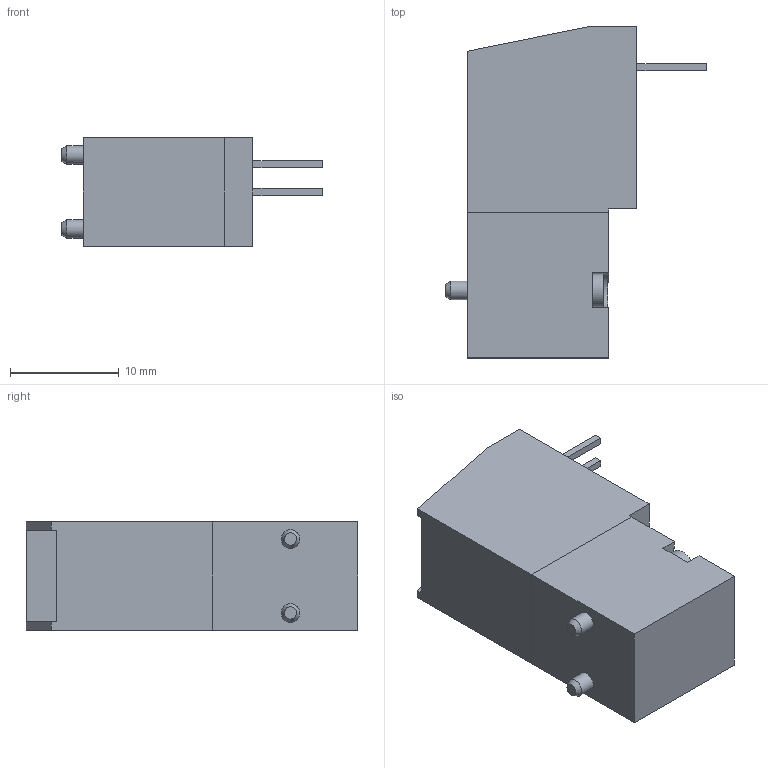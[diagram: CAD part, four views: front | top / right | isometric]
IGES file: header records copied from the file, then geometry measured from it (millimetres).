
Global section: file name: P377_41_S; native system: Autodesk Inventor 2014; preprocessor: unknown; author: A. Manieri; organization: Pneumax S.p.A.; date: 20161005.154348; units: millimetre
Bounding box: 24 x 30.5 x 10 mm (x, y, z)
Volume: 4093.1 mm3; surface area: 1909.5 mm2
Topology: 1 solids, 1 shells, 82 faces, 207 edges, 136 vertices
Faces by surface type: bspline 82
